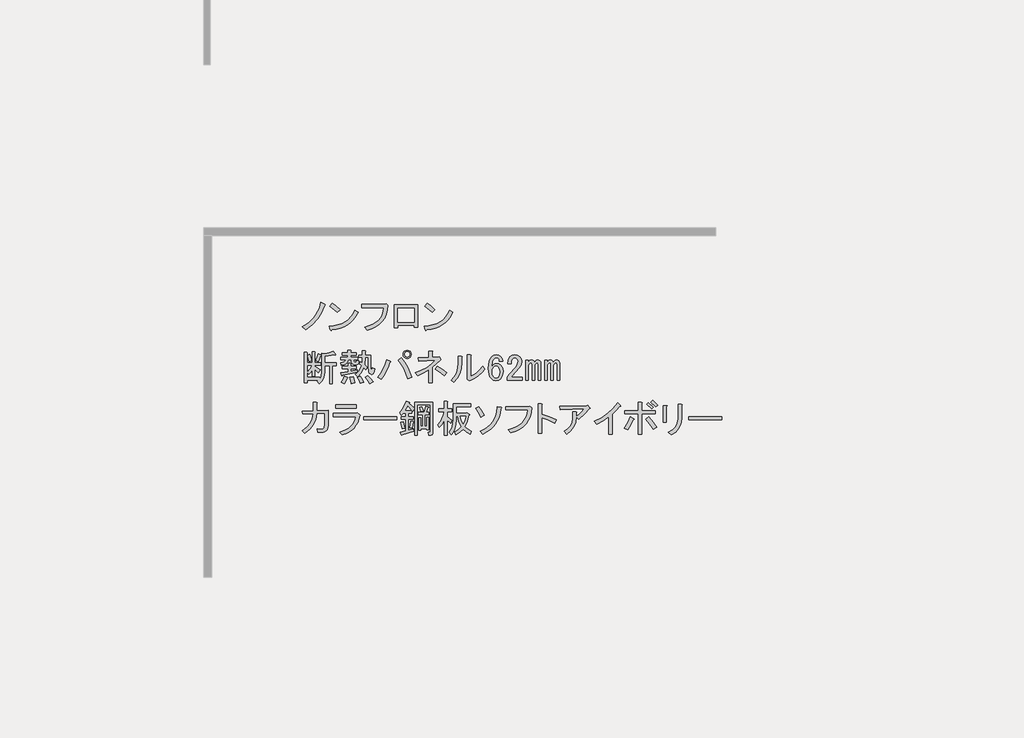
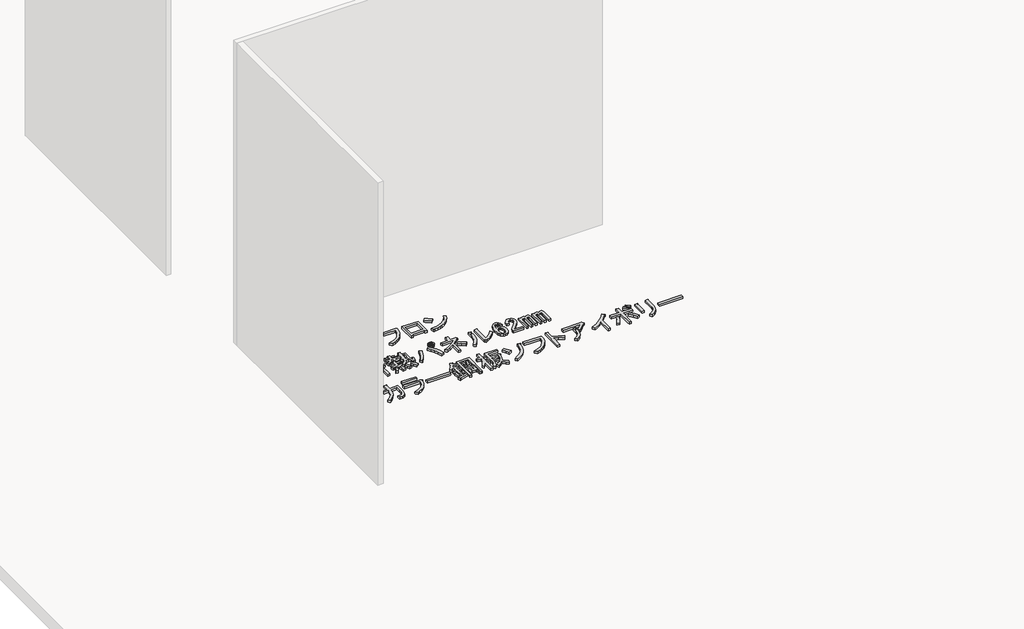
# One storey, part 64 of 117: 1 proxy.
"""IFC4 building model written with IfcOpenShell, lengths in millimetres."""

from ifc_helpers import new_model, si_unit, frame, origin, place, context, project, spatial, polyline, outline, extrude, element, save

model = new_model("IFC4")

# Units and contexts
model_context = context("Model", 3, world=origin())
ifc_project = project(units=[si_unit("LENGTHUNIT", "METRE", prefix="MILLI")], contexts=[model_context])

# Site, building, storey
site = spatial("IfcSite", under=ifc_project)
building = spatial("IfcBuilding", under=site)
storey = spatial("IfcBuildingStorey", under=building, Name="レベル 1", Elevation=500.0)

# Proxy
placement = place(None, origin())
element("IfcBuildingElementProxy", 1, Name="200㎜\u3000MS Pゴシック", ObjectType="200㎜\u3000MS Pゴシック", at=placement, inside=storey, context=model_context, shape_type="SweptSolid", body=[
    extrude(outline(polyline([(-23056.3293015, 3392.9503118), (-23081.9047498, 3333.1784775), (-23110.353844, 3287.2001434), (-23152.0217093, 3241.7965385), (-23201.1610538, 3204.439142), (-23228.7480543, 3226.2788507), (-23181.0455327, 3256.7394971), (-23141.3892195, 3295.2463519), (-23124.0036619, 3319.1694538), (-23108.6296565, 3347.2593423), (-23095.2672031, 3379.5160173), (-23083.9163019, 3415.9394788), (-23052.8809264, 3402.1459786), (-23049.7199159, 3397.5481452), (-23056.3293015, 3392.9503118)])), frame((0.0, 0.0, 500.0), z_axis=(0.0, 0.0, 1.0), x_axis=(1.0, 0.0, 0.0)), (0.0, 0.0, 1.0), 25.0),
    extrude(outline(polyline([(-22956.6022948, 3337.7763109), (-23015.2246708, 3384.9041033), (-22995.6838788, 3409.0427287), (-22968.3842429, 3389.2145721), (-22934.7625862, 3359.6160196), (-22956.6022948, 3337.7763109)])), frame((0.0, 0.0, 500.0), z_axis=(0.0, 0.0, 1.0), x_axis=(1.0, 0.0, 0.0)), (0.0, 0.0, 1.0), 25.0),
    extrude(outline(polyline([(-22794.5286672, 3337.7763109), (-22811.052131, 3308.034076), (-22830.1618761, 3282.0275808), (-22851.8579025, 3259.7568252), (-22876.1402102, 3241.2218093), (-22903.0087992, 3226.422533), (-22932.4636694, 3215.3589964), (-22964.504821, 3208.0311994), (-22999.1322539, 3204.439142), (-23004.8795456, 3196.3929336), (-23010.6268374, 3202.1402253), (-23019.8225042, 3232.0261425), (-22983.9917321, 3234.7022252), (-22951.2142088, 3241.0062859), (-22921.4899342, 3250.9383244), (-22894.8189084, 3264.4983409), (-22871.2011313, 3281.6863354), (-22850.636603, 3302.5023077), (-22833.1253234, 3326.946258), (-22818.6672926, 3355.0181862), (-22794.5286672, 3337.7763109)])), frame((0.0, 0.0, 500.0), z_axis=(0.0, 0.0, 1.0), x_axis=(1.0, 0.0, 0.0)), (0.0, 0.0, 1.0), 25.0),
    extrude(outline(polyline([(-22743.7685864, 3222.8304757), (-22709.985287, 3232.5110702), (-22680.4765359, 3244.8857078), (-22655.242333, 3259.9543884), (-22634.2826783, 3277.717112), (-22617.597572, 3298.1738786), (-22605.1870138, 3321.3246882), (-22597.0510039, 3347.1695409), (-22593.1895423, 3375.7084365), (-22765.6082951, 3375.7084365), (-22765.6082951, 3400.9965202), (-22590.8906256, 3400.9965202), (-22574.7982086, 3404.4448953), (-22562.1541668, 3392.9503118), (-22565.674383, 3356.4550091), (-22573.9361149, 3323.4080815), (-22586.9393625, 3293.8095289), (-22604.6841258, 3267.6593514), (-22627.1704048, 3244.957549), (-22654.3981995, 3225.7041216), (-22686.3675099, 3209.8990692), (-22723.078336, 3197.5423919), (-22743.7685864, 3222.8304757)])), frame((0.0, 0.0, 500.0), z_axis=(0.0, 0.0, 1.0), x_axis=(1.0, 0.0, 0.0)), (0.0, 0.0, 1.0), 25.0),
    extrude(outline(polyline([(-22329.044013, 3223.979934), (-22355.4815551, 3223.979934), (-22355.4815551, 3236.6239759), (-22483.0714321, 3236.6239759), (-22483.0714321, 3218.2326423), (-22509.5089742, 3218.2326423), (-22509.5089742, 3397.5481452), (-22329.044013, 3397.5481452), (-22329.044013, 3223.979934)]), holes=[polyline([(-22483.0714321, 3372.2600614), (-22483.0714321, 3261.9120596), (-22355.4815551, 3261.9120596), (-22355.4815551, 3372.2600614), (-22483.0714321, 3372.2600614)])]), frame((0.0, 0.0, 500.0), z_axis=(0.0, 0.0, 1.0), x_axis=(1.0, 0.0, 0.0)), (0.0, 0.0, 1.0), 25.0),
    extrude(outline(polyline([(-22052.9900951, 3337.7763109), (-22069.5135589, 3308.034076), (-22088.623304, 3282.0275808), (-22110.3193304, 3259.7568252), (-22134.6016381, 3241.2218093), (-22161.4702271, 3226.422533), (-22190.9250974, 3215.3589964), (-22222.9662489, 3208.0311994), (-22257.5936818, 3204.439142), (-22263.3409736, 3196.3929336), (-22269.0882653, 3202.1402253), (-22278.2839321, 3232.0261425), (-22242.4531601, 3234.7022252), (-22209.6756367, 3241.0062859), (-22179.9513622, 3250.9383244), (-22153.2803363, 3264.4983409), (-22129.6625593, 3281.6863354), (-22109.0980309, 3302.5023077), (-22091.5867514, 3326.946258), (-22077.1287205, 3355.0181862), (-22052.9900951, 3337.7763109)])), frame((0.0, 0.0, 500.0), z_axis=(0.0, 0.0, 1.0), x_axis=(1.0, 0.0, 0.0)), (0.0, 0.0, 1.0), 25.0),
    extrude(outline(polyline([(-22215.0637228, 3337.7763109), (-22273.6860987, 3384.9041033), (-22254.1453067, 3409.0427287), (-22226.8456709, 3389.2145721), (-22193.2240141, 3359.6160196), (-22215.0637228, 3337.7763109)])), frame((0.0, 0.0, 500.0), z_axis=(0.0, 0.0, 1.0), x_axis=(1.0, 0.0, 0.0)), (0.0, 0.0, 1.0), 25.0),
    extrude(outline(polyline([(-23122.9978859, 2960.7654779), (-23105.7560106, 3013.6405621), (-23085.0657603, 3007.8932704), (-23083.3415727, 3004.7322599), (-23087.364677, 3002.1459786), (-23104.6065522, 2953.8687278), (-23122.9978859, 2960.7654779)])), frame((0.0, 0.0, 500.0), z_axis=(0.0, 0.0, 1.0), x_axis=(1.0, 0.0, 0.0)), (0.0, 0.0, 1.0), 25.0),
    extrude(outline(polyline([(-22968.9704667, 3009.0427287), (-22970.6946542, 3004.4448953), (-22978.1661335, 3006.743812), (-23055.1798431, 2994.0997701), (-23055.1798431, 2944.673061), (-22963.2231749, 2944.673061), (-22963.2231749, 2922.8333523), (-22994.2585505, 2922.8333523), (-22994.2585505, 2782.5994334), (-23017.2477175, 2782.5994334), (-23017.2477175, 2922.8333523), (-23055.1798431, 2922.8333523), (-23055.1798431, 2873.4066432), (-23057.7661244, 2845.6041193), (-23065.5249683, 2820.8189236), (-23078.4563747, 2799.051056), (-23096.5603438, 2780.3005167), (-23113.8022191, 2799.8413086), (-23103.4570939, 2809.0369755), (-23193.1148454, 2809.0369755), (-23193.1148454, 2787.1972668), (-23216.1040124, 2787.1972668), (-23216.1040124, 3026.284604), (-23194.2643037, 3026.284604), (-23189.3791057, 3023.9856873), (-23193.1148454, 3019.3878539), (-23193.1148454, 2943.5236026), (-23150.5848863, 2943.5236026), (-23150.5848863, 3030.8824374), (-23132.1935527, 3030.8824374), (-23127.3083547, 3028.5835207), (-23131.0440943, 3023.9856873), (-23131.0440943, 2943.5236026), (-23087.364677, 2943.5236026), (-23087.364677, 2925.132269), (-23131.0440943, 2925.132269), (-23131.0440943, 2915.9366022), (-23090.813052, 2889.4990601), (-23104.6065522, 2867.6593514), (-23131.0440943, 2894.0968935), (-23131.0440943, 2841.2218093), (-23150.5848863, 2841.2218093), (-23150.5848863, 2889.4990601), (-23163.8036574, 2869.6709035), (-23178.1718868, 2853.8658512), (-23190.8159287, 2872.2571848), (-23168.97622, 2896.3958102), (-23151.7343447, 2925.132269), (-23193.1148454, 2925.132269), (-23193.1148454, 2830.8766841), (-23095.4108854, 2830.8766841), (-23095.4108854, 2817.0831839), (-23082.479479, 2841.2218093), (-23078.1690102, 2874.5561015), (-23078.1690102, 3019.3878539), (-23056.3293015, 3013.6405621), (-23020.1213634, 3021.1120414), (-22989.660717, 3034.3308125), (-22968.9704667, 3009.0427287)])), frame((0.0, 0.0, 500.0), z_axis=(0.0, 0.0, 1.0), x_axis=(1.0, 0.0, 0.0)), (0.0, 0.0, 1.0), 25.0),
    extrude(outline(polyline([(-23177.0224284, 2952.7192695), (-23189.6664703, 3003.2954369), (-23170.1256783, 3010.1921871), (-23162.3668344, 2986.0535617), (-23157.4816364, 2959.6160196), (-23177.0224284, 2952.7192695)])), frame((0.0, 0.0, 500.0), z_axis=(0.0, 0.0, 1.0), x_axis=(1.0, 0.0, 0.0)), (0.0, 0.0, 1.0), 25.0),
    extrude(outline(polyline([(-22878.1632569, 2832.0261425), (-22874.7148818, 2827.1409445), (-22880.4621736, 2823.979934), (-22890.2325696, 2798.4044857), (-22901.1524239, 2779.1510583), (-22924.141591, 2790.6456418), (-22911.4975491, 2814.209538), (-22901.1524239, 2841.2218093), (-22878.1632569, 2832.0261425)])), frame((0.0, 0.0, 500.0), z_axis=(0.0, 0.0, 1.0), x_axis=(1.0, 0.0, 0.0)), (0.0, 0.0, 1.0), 25.0),
    extrude(outline(polyline([(-22833.3343812, 2836.6239759), (-22823.2766206, 2809.32434), (-22818.3914226, 2787.1972668), (-22847.1278814, 2781.449975), (-22849.7141627, 2803.0023191), (-22857.4730066, 2833.1756008), (-22833.3343812, 2836.6239759)])), frame((0.0, 0.0, 500.0), z_axis=(0.0, 0.0, 1.0), x_axis=(1.0, 0.0, 0.0)), (0.0, 0.0, 1.0), 25.0),
    extrude(outline(polyline([(-22718.388546, 2842.3712677), (-22693.6751914, 2821.1062881), (-22674.7091286, 2796.3929336), (-22701.1466707, 2781.449975), (-22720.4000981, 2811.0485276), (-22739.0787963, 2830.8766841), (-22718.388546, 2842.3712677)])), frame((0.0, 0.0, 500.0), z_axis=(0.0, 0.0, 1.0), x_axis=(1.0, 0.0, 0.0)), (0.0, 0.0, 1.0), 25.0),
    extrude(outline(polyline([(-22777.0109219, 2783.7488917), (-22785.344495, 2808.4622463), (-22798.8506306, 2829.7272258), (-22778.1603803, 2837.7734343), (-22761.2058696, 2816.2210902), (-22749.4239215, 2792.9445585), (-22777.0109219, 2783.7488917)])), frame((0.0, 0.0, 500.0), z_axis=(0.0, 0.0, 1.0), x_axis=(1.0, 0.0, 0.0)), (0.0, 0.0, 1.0), 25.0),
    extrude(outline(polyline([(-22916.0953825, 2846.9691011), (-22918.1069346, 2842.0839031), (-22921.8426743, 2843.520726), (-22927.589966, 2867.6593514), (-22872.4159651, 2875.7055599), (-22872.4159651, 2898.6947269), (-22916.0953825, 2898.6947269), (-22916.0953825, 2917.0860605), (-22872.4159651, 2917.0860605), (-22872.4159651, 2940.0752276), (-22854.0246315, 2940.0752276), (-22849.1394335, 2937.7763109), (-22852.8751732, 2933.1784775), (-22852.8751732, 2917.0860605), (-22808.0462974, 2917.0860605), (-22808.0462974, 2898.6947269), (-22852.8751732, 2898.6947269), (-22852.8751732, 2879.1539349), (-22802.2990057, 2888.3496017), (-22802.2990057, 2872.2571848), (-22916.0953825, 2846.9691011)])), frame((0.0, 0.0, 500.0), z_axis=(0.0, 0.0, 1.0), x_axis=(1.0, 0.0, 0.0)), (0.0, 0.0, 1.0), 25.0),
    extrude(outline(polyline([(-22845.978423, 2968.8116864), (-22871.2665068, 2968.8116864), (-22875.8643402, 2951.3542877), (-22886.2094654, 2938.0636755), (-22902.3018823, 2928.9398498), (-22924.141591, 2923.9828107), (-22928.7394244, 2943.5236026), (-22903.4513406, 2952.1445403), (-22895.9798614, 2959.4723373), (-22891.9567571, 2968.8116864), (-22927.589966, 2968.8116864), (-22927.589966, 2987.20302), (-22873.5654235, 2987.20302), (-22873.5654235, 3004.4448953), (-22917.2448409, 3004.4448953), (-22917.2448409, 3022.8362289), (-22873.5654235, 3022.8362289), (-22873.5654235, 3041.2275626), (-22851.7257148, 3041.2275626), (-22846.8405168, 3038.9286459), (-22850.5762564, 3034.3308125), (-22850.5762564, 3022.8362289), (-22808.0462974, 3022.8362289), (-22808.0462974, 3004.4448953), (-22850.5762564, 3004.4448953), (-22850.5762564, 2987.20302), (-22797.7011723, 2987.20302), (-22797.7011723, 2968.8116864), (-22826.4376311, 2968.8116864), (-22826.4376311, 2956.1676445), (-22825.0008081, 2950.9950819), (-22820.6903393, 2949.2708944), (-22810.3452141, 2949.2708944), (-22806.6094745, 2952.4319049), (-22806.8968391, 2961.9149363), (-22787.3560471, 2959.6160196), (-22790.229693, 2938.0636755), (-22795.5459378, 2932.6755894), (-22803.448464, 2930.8795608), (-22827.5870894, 2930.8795608), (-22841.3805896, 2935.7647588), (-22845.978423, 2950.4203528), (-22845.978423, 2968.8116864)])), frame((0.0, 0.0, 500.0), z_axis=(0.0, 0.0, 1.0), x_axis=(1.0, 0.0, 0.0)), (0.0, 0.0, 1.0), 25.0),
    extrude(outline(polyline([(-22714.9401709, 2986.0535617), (-22736.7798796, 2986.0535617), (-22741.377713, 2928.5806441), (-22721.836921, 2910.1893104), (-22732.1820462, 2888.3496017), (-22748.2744631, 2904.4420187), (-22767.5278905, 2866.7972576), (-22797.7011723, 2834.3250592), (-22814.9430475, 2855.0153095), (-22799.8564067, 2866.9409399), (-22786.7813179, 2882.0275808), (-22775.7177813, 2900.2752321), (-22766.6657967, 2921.683894), (-22783.907672, 2936.6268525), (-22775.8614636, 2953.8687278), (-22762.0679633, 2943.5236026), (-22759.7690466, 2986.0535617), (-22787.3560471, 2986.0535617), (-22787.3560471, 3004.4448953), (-22759.7690466, 3004.4448953), (-22759.7690466, 3038.9286459), (-22737.9293379, 3038.9286459), (-22733.04414, 3036.6297292), (-22736.7798796, 3032.0318957), (-22736.7798796, 3004.4448953), (-22695.3993789, 3004.4448953), (-22695.3993789, 2907.8903937), (-22691.9510039, 2883.7517683), (-22688.7181523, 2881.7402162), (-22685.9163475, 2884.9012267), (-22681.6058787, 2906.7409354), (-22662.0650867, 2899.8441853), (-22666.591079, 2873.0474374), (-22674.421764, 2857.0268616), (-22685.5571418, 2851.7824579), (-22699.9972123, 2857.3142262), (-22706.5347567, 2864.6420232), (-22711.2044313, 2876.280289), (-22714.9401709, 2912.4882271), (-22714.9401709, 2986.0535617)])), frame((0.0, 0.0, 500.0), z_axis=(0.0, 0.0, 1.0), x_axis=(1.0, 0.0, 0.0)), (0.0, 0.0, 1.0), 25.0),
    extrude(outline(polyline([(-22456.3120417, 2983.754645), (-22429.6589762, 2947.0438188), (-22407.1726971, 2909.3272167), (-22388.8532047, 2870.6048384), (-22374.7004987, 2830.8766841), (-22405.7358742, 2820.531559), (-22421.1817208, 2863.6362472), (-22438.7828018, 2902.143102), (-22458.5391173, 2936.0521234), (-22480.4506671, 2965.3633113), (-22456.3120417, 2983.754645)])), frame((0.0, 0.0, 500.0), z_axis=(0.0, 0.0, 1.0), x_axis=(1.0, 0.0, 0.0)), (0.0, 0.0, 1.0), 25.0),
    extrude(outline(polyline([(-22543.6708765, 2957.3171029), (-22539.6477722, 2951.8571757), (-22545.9697932, 2946.9719777), (-22557.8954236, 2911.5542922), (-22572.9820644, 2877.717112), (-22591.2297158, 2845.460437), (-22612.6383776, 2814.7842672), (-22639.0759197, 2832.0261425), (-22615.8712292, 2863.4925649), (-22596.8333252, 2896.9705394), (-22581.9622078, 2932.460066), (-22571.2578769, 2969.9611447), (-22543.6708765, 2957.3171029)])), frame((0.0, 0.0, 500.0), z_axis=(0.0, 0.0, 1.0), x_axis=(1.0, 0.0, 0.0)), (0.0, 0.0, 1.0), 25.0),
    extrude(outline(polyline([(-22410.3337076, 2978.0073532), (-22422.9777495, 2980.3062699), (-22433.3228747, 2987.20302), (-22440.2196248, 2997.5481452), (-22442.5185415, 3010.1921871), (-22440.2196248, 3022.8362289), (-22433.3228747, 3033.1813541), (-22422.9777495, 3040.0781042), (-22410.3337076, 3042.3770209), (-22397.6896657, 3040.0781042), (-22387.3445406, 3033.1813541), (-22380.4477905, 3022.8362289), (-22378.1488738, 3010.1921871), (-22380.4477905, 2997.5481452), (-22387.3445406, 2987.20302), (-22397.6896657, 2980.3062699), (-22410.3337076, 2978.0073532)]), holes=[polyline([(-22410.3337076, 2989.5019367), (-22402.0001346, 2990.9387597), (-22395.390749, 2995.2492285), (-22391.0802802, 3001.858614), (-22389.6434573, 3010.1921871), (-22391.0802802, 3018.5257601), (-22395.390749, 3025.1351456), (-22402.0001346, 3029.4456145), (-22410.3337076, 3030.8824374), (-22418.6672807, 3029.4456145), (-22425.2766662, 3025.1351456), (-22429.587135, 3018.5257601), (-22431.023958, 3010.1921871), (-22429.587135, 3001.858614), (-22425.2766662, 2995.2492285), (-22418.6672807, 2990.9387597), (-22410.3337076, 2989.5019367)])]), frame((0.0, 0.0, 500.0), z_axis=(0.0, 0.0, 1.0), x_axis=(1.0, 0.0, 0.0)), (0.0, 0.0, 1.0), 25.0),
    extrude(outline(polyline([(-22120.6702029, 2844.6701844), (-22157.7402348, 2873.9813723), (-22190.7871624, 2895.2463519), (-22173.5452871, 2917.0860605), (-22134.7510677, 2893.8095289), (-22101.1294109, 2867.6593514), (-22120.6702029, 2844.6701844)])), frame((0.0, 0.0, 500.0), z_axis=(0.0, 0.0, 1.0), x_axis=(1.0, 0.0, 0.0)), (0.0, 0.0, 1.0), 25.0),
    extrude(outline(polyline([(-22166.648537, 2988.3524784), (-22159.7517869, 2990.6513951), (-22147.107745, 2973.4095198), (-22145.9582866, 2967.3748634), (-22151.7055784, 2965.3633113), (-22214.9257878, 2909.0398521), (-22214.9257878, 2788.3467251), (-22241.3633299, 2788.3467251), (-22241.3633299, 2890.6485184), (-22281.5943722, 2866.5098931), (-22326.4232479, 2844.6701844), (-22345.9640399, 2865.3604347), (-22300.4167527, 2884.8293855), (-22259.1799343, 2907.6030291), (-22222.2535848, 2933.6813655), (-22189.637704, 2963.0643946), (-22319.5264978, 2957.3171029), (-22322.9748729, 2982.6051866), (-22241.3633299, 2984.9041033), (-22241.3633299, 3036.6297292), (-22218.3741628, 3036.6297292), (-22212.3395065, 3033.1813541), (-22214.9257878, 3027.4340623), (-22214.9257878, 2986.0535617), (-22166.648537, 2988.3524784)])), frame((0.0, 0.0, 500.0), z_axis=(0.0, 0.0, 1.0), x_axis=(1.0, 0.0, 0.0)), (0.0, 0.0, 1.0), 25.0),
    extrude(outline(polyline([(-22067.703162, 2806.7380587), (-22042.5587606, 2835.9774056), (-22024.5984738, 2868.5214452), (-22013.8223018, 2904.3701775), (-22010.2302444, 2943.5236026), (-22010.2302444, 2995.2492285), (-21986.091619, 2995.2492285), (-21980.3443273, 2991.8008534), (-21983.7927023, 2986.0535617), (-21983.7927023, 2944.673061), (-21987.6002831, 2898.9102504), (-21999.0230255, 2858.17632), (-22018.0609295, 2822.4712699), (-22044.713995, 2791.7951002), (-22067.703162, 2806.7380587)])), frame((0.0, 0.0, 500.0), z_axis=(0.0, 0.0, 1.0), x_axis=(1.0, 0.0, 0.0)), (0.0, 0.0, 1.0), 25.0),
    extrude(outline(polyline([(-21913.6757429, 2837.7734343), (-21888.8905471, 2849.9864292), (-21865.1111275, 2867.0846222), (-21842.3374839, 2889.0680132), (-21820.5696163, 2915.9366022), (-21804.4771994, 2894.0968935), (-21827.753731, 2866.2943696), (-21853.9039086, 2842.6586322), (-21882.9277319, 2823.1896814), (-21914.8252012, 2807.8875171), (-21924.020868, 2803.2896837), (-21942.4122017, 2817.0831839), (-21940.113285, 2822.8304757), (-21940.113285, 3007.8932704), (-21915.9746596, 3007.8932704), (-21910.2273678, 3004.4448953), (-21913.6757429, 2998.6976035), (-21913.6757429, 2837.7734343)])), frame((0.0, 0.0, 500.0), z_axis=(0.0, 0.0, 1.0), x_axis=(1.0, 0.0, 0.0)), (0.0, 0.0, 1.0), 25.0),
    extrude(outline(polyline([(-21775.7407406, 2902.143102), (-21774.0165531, 2931.5261311), (-21768.8439905, 2956.4550091), (-21760.2230529, 2976.929736), (-21748.1537402, 2992.9503118), (-21732.6360524, 3003.2954369), (-21713.6699896, 3006.743812), (-21693.841833, 3003.2954369), (-21678.0367807, 2992.9503118), (-21666.8295618, 2975.9958011), (-21663.0938221, 2955.0181862), (-21689.5313642, 2955.0181862), (-21691.2555517, 2968.8116864), (-21696.4281143, 2978.0073532), (-21704.1869582, 2983.1799158), (-21713.6699896, 2984.9041033), (-21723.153021, 2983.1799158), (-21730.9118649, 2978.0073532), (-21738.9580734, 2967.0874989), (-21744.7053651, 2952.7192695), (-21749.3031985, 2913.6376855), (-21737.808615, 2928.5806441), (-21726.3140315, 2936.3394879), (-21712.5205313, 2938.9257692), (-21693.5544684, 2935.4773942), (-21678.0367807, 2925.132269), (-21665.1053742, 2903.5799249), (-21660.7949054, 2873.4066432), (-21665.3927388, 2842.0839031), (-21679.186239, 2819.3821006), (-21695.5660206, 2809.0369755), (-21717.1183647, 2805.5886004), (-21736.9465212, 2809.8990692), (-21755.0504903, 2822.8304757), (-21764.1024748, 2835.5463587), (-21770.568178, 2853.0037574), (-21775.7407406, 2902.143102)]), holes=[polyline([(-21714.819448, 2918.2355189), (-21725.4519377, 2916.2239668), (-21734.3602399, 2910.1893104), (-21743.8432714, 2895.2463519), (-21747.0042818, 2875.7055599), (-21743.5559068, 2851.5669345), (-21733.2107816, 2834.3250592), (-21724.8772085, 2828.2904028), (-21715.9689063, 2826.2788507), (-21706.4858749, 2828.0030383), (-21698.727031, 2833.1756008), (-21690.9681872, 2848.405924), (-21688.3819059, 2873.4066432), (-21690.9681872, 2895.821081), (-21698.727031, 2910.1893104), (-21706.7732395, 2916.2239668), (-21714.819448, 2918.2355189)])]), frame((0.0, 0.0, 500.0), z_axis=(0.0, 0.0, 1.0), x_axis=(1.0, 0.0, 0.0)), (0.0, 0.0, 1.0), 25.0),
    extrude(outline(polyline([(-21625.1616965, 2937.7763109), (-21620.5638631, 2969.099051), (-21606.7703629, 2991.8008534), (-21590.3905814, 3003.0080724), (-21571.137154, 3006.743812), (-21548.4353515, 3003.0080724), (-21530.9061116, 2991.8008534), (-21519.6988927, 2975.1337073), (-21515.9631531, 2955.0181862), (-21520.2736219, 2929.1553732), (-21533.2050283, 2906.7409354), (-21566.5393205, 2868.8088098), (-21584.9306542, 2848.1185594), (-21598.7241544, 2829.7272258), (-21512.514778, 2829.7272258), (-21512.514778, 2807.8875171), (-21629.7595299, 2807.8875171), (-21629.7595299, 2827.4283091), (-21623.7248736, 2841.2218093), (-21610.2187379, 2859.6131429), (-21563.0909455, 2911.3387688), (-21548.4353515, 2932.6037483), (-21543.5501535, 2955.0181862), (-21545.8490702, 2967.662228), (-21552.7458203, 2978.0073532), (-21560.5046642, 2983.1799158), (-21569.9876956, 2984.9041033), (-21578.6086332, 2983.1799158), (-21586.0801125, 2978.0073532), (-21595.5631439, 2961.6275717), (-21598.7241544, 2937.7763109), (-21625.1616965, 2937.7763109)])), frame((0.0, 0.0, 500.0), z_axis=(0.0, 0.0, 1.0), x_axis=(1.0, 0.0, 0.0)), (0.0, 0.0, 1.0), 25.0),
    extrude(outline(polyline([(-21463.0880689, 2806.7380587), (-21482.6288608, 2806.7380587), (-21482.6288608, 2964.213853), (-21463.0880689, 2964.213853), (-21463.0880689, 2946.9719777), (-21451.0187562, 2962.4896654), (-21437.7999851, 2967.662228), (-21428.6043183, 2966.2254051), (-21421.7075682, 2961.9149363), (-21414.8108181, 2948.121436), (-21401.8794116, 2962.77703), (-21388.373276, 2967.662228), (-21380.0397029, 2966.2254051), (-21373.4303174, 2961.9149363), (-21368.2577548, 2953.2939986), (-21366.5335673, 2941.2246859), (-21366.5335673, 2806.7380587), (-21386.0743593, 2806.7380587), (-21386.0743593, 2930.8795608), (-21388.6606406, 2940.3625922), (-21396.4194844, 2943.5236026), (-21406.7646096, 2938.9257692), (-21412.799266, 2930.3048316), (-21414.8108181, 2920.5344356), (-21414.8108181, 2806.7380587), (-21434.3516101, 2806.7380587), (-21434.3516101, 2930.8795608), (-21436.9378914, 2940.3625922), (-21444.6967352, 2943.5236026), (-21455.0418604, 2938.9257692), (-21461.0765167, 2930.3048316), (-21463.0880689, 2920.5344356), (-21463.0880689, 2806.7380587)])), frame((0.0, 0.0, 500.0), z_axis=(0.0, 0.0, 1.0), x_axis=(1.0, 0.0, 0.0)), (0.0, 0.0, 1.0), 25.0),
    extrude(outline(polyline([(-21241.2426069, 2967.662228), (-21232.9090339, 2966.2254051), (-21226.2996483, 2961.9149363), (-21221.1270858, 2953.2939986), (-21219.4028982, 2941.2246859), (-21219.4028982, 2806.7380587), (-21238.9436902, 2806.7380587), (-21238.9436902, 2930.8795608), (-21241.5299715, 2940.3625922), (-21249.2888154, 2943.5236026), (-21259.6339406, 2938.9257692), (-21265.6685969, 2930.3048316), (-21267.680149, 2920.5344356), (-21267.680149, 2806.7380587), (-21287.220941, 2806.7380587), (-21287.220941, 2930.8795608), (-21289.8072223, 2940.3625922), (-21297.5660662, 2943.5236026), (-21307.9111913, 2938.9257692), (-21313.9458477, 2930.3048316), (-21315.9573998, 2920.5344356), (-21315.9573998, 2806.7380587), (-21335.4981918, 2806.7380587), (-21335.4981918, 2964.213853), (-21315.9573998, 2964.213853), (-21315.9573998, 2946.9719777), (-21303.8880871, 2962.4896654), (-21290.6693161, 2967.662228), (-21281.4736492, 2966.2254051), (-21274.5768991, 2961.9149363), (-21267.680149, 2948.121436), (-21254.7487426, 2962.77703), (-21241.2426069, 2967.662228)])), frame((0.0, 0.0, 500.0), z_axis=(0.0, 0.0, 1.0), x_axis=(1.0, 0.0, 0.0)), (0.0, 0.0, 1.0), 25.0),
    extrude(outline(polyline([(-23052.8809264, 2549.2708944), (-23118.4000525, 2546.9719777), (-23126.6617844, 2500.706279), (-23144.55023, 2459.6131429), (-23172.0653893, 2423.6925694), (-23209.2072623, 2392.9445585), (-23228.7480543, 2412.4853505), (-23193.7614157, 2440.7189213), (-23168.1141262, 2472.5445494), (-23151.8061858, 2507.9622349), (-23144.8375946, 2546.9719777), (-23226.4491376, 2544.673061), (-23228.7480543, 2567.662228), (-23143.6881362, 2569.9611447), (-23143.6881362, 2634.3308125), (-23119.5495108, 2634.3308125), (-23112.6527607, 2630.8824374), (-23117.2505941, 2625.1351456), (-23117.2505941, 2569.9611447), (-23026.4433843, 2573.4095198), (-23026.4433843, 2502.143102), (-23029.0296656, 2454.1532158), (-23036.7885095, 2422.8304757), (-23043.397895, 2412.7727151), (-23052.8809264, 2405.5886004), (-23065.2376037, 2401.2781316), (-23080.4679269, 2399.8413086), (-23108.0549273, 2399.8413086), (-23111.5033024, 2428.5777674), (-23081.6173852, 2426.2788507), (-23067.5365204, 2429.1524966), (-23059.7776765, 2437.7734343), (-23054.6051139, 2463.061518), (-23052.8809264, 2502.143102), (-23052.8809264, 2549.2708944)])), frame((0.0, 0.0, 500.0), z_axis=(0.0, 0.0, 1.0), x_axis=(1.0, 0.0, 0.0)), (0.0, 0.0, 1.0), 25.0),
    extrude(outline(polyline([(-22808.1382541, 2589.5019367), (-22966.7635067, 2589.5019367), (-22966.7635067, 2614.7900205), (-22808.1382541, 2614.7900205), (-22808.1382541, 2589.5019367)])), frame((0.0, 0.0, 500.0), z_axis=(0.0, 0.0, 1.0), x_axis=(1.0, 0.0, 0.0)), (0.0, 0.0, 1.0), 25.0),
    extrude(outline(polyline([(-22938.0270479, 2403.2896837), (-22888.3848153, 2421.6091762), (-22868.1435721, 2433.7323697), (-22850.9555777, 2447.8311948), (-22836.820832, 2463.9056515), (-22825.7393351, 2481.9557397), (-22817.7110869, 2501.9814594), (-22812.7360875, 2523.9828107), (-22987.453757, 2523.9828107), (-22987.453757, 2549.2708944), (-22811.5866291, 2549.2708944), (-22801.241504, 2552.7192695), (-22780.5512536, 2540.0752276), (-22777.6776078, 2534.6153004), (-22782.8501703, 2529.7301024), (-22788.9746281, 2502.2508637), (-22798.1523347, 2477.2860651), (-22810.3832899, 2454.8357067), (-22825.667494, 2434.8997884), (-22844.0049467, 2417.4783102), (-22865.3956483, 2402.5712722), (-22889.8395985, 2390.1786744), (-22917.3367975, 2380.3005167), (-22938.0270479, 2403.2896837)])), frame((0.0, 0.0, 500.0), z_axis=(0.0, 0.0, 1.0), x_axis=(1.0, 0.0, 0.0)), (0.0, 0.0, 1.0), 25.0),
    extrude(outline(polyline([(-22749.1020731, 2498.6947269), (-22749.1020731, 2523.9828107), (-22492.7728606, 2523.9828107), (-22492.7728606, 2498.6947269), (-22749.1020731, 2498.6947269)])), frame((0.0, 0.0, 500.0), z_axis=(0.0, 0.0, 1.0), x_axis=(1.0, 0.0, 0.0)), (0.0, 0.0, 1.0), 25.0),
    extrude(outline(polyline([(-22350.515895, 2634.3308125), (-22210.281976, 2634.3308125), (-22210.281976, 2394.0940169), (-22214.0177157, 2382.8867979), (-22225.2249346, 2379.1510583), (-22241.3173515, 2379.1510583), (-22245.9151849, 2400.990767), (-22234.4206014, 2400.990767), (-22230.9722264, 2402.1402253), (-22229.822768, 2405.5886004), (-22229.822768, 2615.9394788), (-22330.975103, 2615.9394788), (-22330.975103, 2376.8521416), (-22350.515895, 2376.8521416), (-22350.515895, 2634.3308125)])), frame((0.0, 0.0, 500.0), z_axis=(0.0, 0.0, 1.0), x_axis=(1.0, 0.0, 0.0)), (0.0, 0.0, 1.0), 25.0),
    extrude(outline(polyline([(-22362.0104785, 2486.050685), (-22359.4241972, 2482.8896746), (-22363.1599368, 2480.3033933), (-22371.2061453, 2433.1756008), (-22389.5974789, 2435.4745175), (-22383.8501872, 2489.4990601), (-22362.0104785, 2486.050685)])), frame((0.0, 0.0, 500.0), z_axis=(0.0, 0.0, 1.0), x_axis=(1.0, 0.0, 0.0)), (0.0, 0.0, 1.0), 25.0),
    extrude(outline(polyline([(-22439.0241881, 2484.9012267), (-22427.5296046, 2433.1756008), (-22448.2198549, 2427.4283091), (-22459.7144384, 2479.1539349), (-22439.0241881, 2484.9012267)])), frame((0.0, 0.0, 500.0), z_axis=(0.0, 0.0, 1.0), x_axis=(1.0, 0.0, 0.0)), (0.0, 0.0, 1.0), 25.0),
    extrude(outline(polyline([(-22365.4588536, 2565.3633113), (-22406.8393542, 2609.0427287), (-22428.6790629, 2569.9611447), (-22373.505062, 2569.9611447), (-22373.505062, 2551.5698111), (-22399.9426041, 2551.5698111), (-22399.9426041, 2522.8333523), (-22362.0104785, 2522.8333523), (-22362.0104785, 2504.4420187), (-22399.9426041, 2504.4420187), (-22399.9426041, 2417.0831839), (-22360.8610201, 2427.4283091), (-22358.5621034, 2407.8875171), (-22450.5187716, 2382.5994334), (-22452.8176883, 2376.8521416), (-22457.4155217, 2380.3005167), (-22464.3122718, 2403.2896837), (-22419.4833961, 2412.4853505), (-22419.4833961, 2504.4420187), (-22457.4155217, 2504.4420187), (-22457.4155217, 2522.8333523), (-22419.4833961, 2522.8333523), (-22419.4833961, 2551.5698111), (-22441.3231048, 2551.5698111), (-22456.2660634, 2533.1784775), (-22468.9101052, 2553.8687278), (-22440.7483756, 2591.5134888), (-22416.035021, 2642.3770209), (-22394.1953124, 2636.6297292), (-22390.7469373, 2632.8939895), (-22396.4942291, 2630.8824374), (-22397.6436874, 2627.4340623), (-22352.8148117, 2589.5019367), (-22365.4588536, 2565.3633113)])), frame((0.0, 0.0, 500.0), z_axis=(0.0, 0.0, 1.0), x_axis=(1.0, 0.0, 0.0)), (0.0, 0.0, 1.0), 25.0),
    extrude(outline(polyline([(-22297.6408108, 2602.1459786), (-22290.4566961, 2586.9156554), (-22284.9967689, 2566.5127697), (-22302.2386442, 2560.7654779), (-22313.7332277, 2597.5481452), (-22297.6408108, 2602.1459786)])), frame((0.0, 0.0, 500.0), z_axis=(0.0, 0.0, 1.0), x_axis=(1.0, 0.0, 0.0)), (0.0, 0.0, 1.0), 25.0),
    extrude(outline(polyline([(-22244.7657266, 2600.9965202), (-22242.1794453, 2597.5481452), (-22248.2141016, 2594.0997701), (-22260.8581435, 2556.1676445), (-22240.1678932, 2556.1676445), (-22240.1678932, 2537.7763109), (-22271.2032687, 2537.7763109), (-22271.2032687, 2449.2680178), (-22256.2603101, 2449.2680178), (-22256.2603101, 2517.0860605), (-22240.1678932, 2517.0860605), (-22240.1678932, 2422.8304757), (-22256.2603101, 2422.8304757), (-22256.2603101, 2430.8766841), (-22302.2386442, 2430.8766841), (-22302.2386442, 2418.2326423), (-22318.3310611, 2418.2326423), (-22318.3310611, 2514.7871438), (-22302.2386442, 2514.7871438), (-22302.2386442, 2449.2680178), (-22287.2956856, 2449.2680178), (-22287.2956856, 2537.7763109), (-22322.9288945, 2537.7763109), (-22322.9288945, 2556.1676445), (-22276.9505604, 2556.1676445), (-22266.6054353, 2605.5943537), (-22244.7657266, 2600.9965202)])), frame((0.0, 0.0, 500.0), z_axis=(0.0, 0.0, 1.0), x_axis=(1.0, 0.0, 0.0)), (0.0, 0.0, 1.0), 25.0),
    extrude(outline(polyline([(-22039.0126816, 2405.5886004), (-22010.2762228, 2422.8304757), (-21988.4365141, 2444.6701844), (-22006.2531185, 2486.6254142), (-22016.0235145, 2527.4311857), (-22028.6675564, 2527.4311857), (-22028.6675564, 2503.2925603), (-22031.1101554, 2461.5528539), (-22038.4379524, 2427.1409445), (-22050.6509474, 2400.0568321), (-22067.7491404, 2380.3005167), (-22081.5426406, 2403.2896837), (-22068.4675518, 2420.6752413), (-22059.1282027, 2442.9459968), (-22053.5245933, 2470.1019504), (-22051.6567234, 2502.143102), (-22051.6567234, 2622.8362289), (-21914.8711796, 2622.8362289), (-21914.8711796, 2600.9965202), (-22028.6675564, 2600.9965202), (-22028.6675564, 2549.2708944), (-21949.3549301, 2549.2708944), (-21943.6076384, 2555.0181862), (-21924.0668464, 2541.2246859), (-21922.6300234, 2537.4889463), (-21927.5152214, 2533.1784775), (-21939.8718987, 2486.6254142), (-21958.5505969, 2445.8196427), (-21939.5845341, 2427.4283091), (-21907.9744294, 2409.0369755), (-21917.1700963, 2384.8983501), (-21945.0444613, 2400.990767), (-21973.4935555, 2426.2788507), (-21997.9195455, 2401.8528608), (-22029.8170148, 2381.449975), (-22039.0126816, 2405.5886004)]), holes=[polyline([(-21994.1838058, 2527.4311857), (-21986.1375974, 2494.3842581), (-21973.4935555, 2466.5098931), (-21960.8495136, 2492.6600706), (-21952.8033052, 2527.4311857), (-21994.1838058, 2527.4311857)])]), frame((0.0, 0.0, 500.0), z_axis=(0.0, 0.0, 1.0), x_axis=(1.0, 0.0, 0.0)), (0.0, 0.0, 1.0), 25.0),
    extrude(outline(polyline([(-22121.7736829, 2376.8521416), (-22121.7736829, 2496.3958102), (-22139.5902874, 2462.1994242), (-22158.5563502, 2440.072351), (-22170.0509337, 2460.7626013), (-22152.8090584, 2483.4644037), (-22139.0155582, 2507.8903937), (-22128.670433, 2534.0405712), (-22121.7736829, 2561.9149363), (-22163.1541836, 2561.9149363), (-22163.1541836, 2583.754645), (-22121.7736829, 2583.754645), (-22121.7736829, 2643.5264793), (-22099.9339742, 2643.5264793), (-22095.0487762, 2641.2275626), (-22098.7845159, 2636.6297292), (-22098.7845159, 2583.754645), (-22060.8523903, 2583.754645), (-22060.8523903, 2561.9149363), (-22098.7845159, 2561.9149363), (-22098.7845159, 2521.683894), (-22060.8523903, 2495.2463519), (-22071.1975154, 2472.2571848), (-22098.7845159, 2495.2463519), (-22098.7845159, 2376.8521416), (-22121.7736829, 2376.8521416)])), frame((0.0, 0.0, 500.0), z_axis=(0.0, 0.0, 1.0), x_axis=(1.0, 0.0, 0.0)), (0.0, 0.0, 1.0), 25.0),
    extrude(outline(polyline([(-21835.5585533, 2520.5344356), (-21855.961439, 2559.9033842), (-21875.7895956, 2588.3524784), (-21850.5015118, 2602.1459786), (-21830.3859907, 2573.4095198), (-21809.1210112, 2535.4773942), (-21835.5585533, 2520.5344356)])), frame((0.0, 0.0, 500.0), z_axis=(0.0, 0.0, 1.0), x_axis=(1.0, 0.0, 0.0)), (0.0, 0.0, 1.0), 25.0),
    extrude(outline(polyline([(-21741.3029684, 2482.60231), (-21729.1618145, 2503.4362426), (-21719.1758951, 2530.3048316), (-21711.3452101, 2563.2080769), (-21705.6697595, 2602.1459786), (-21676.9333007, 2597.5481452), (-21672.0481027, 2593.8124055), (-21678.082759, 2587.20302), (-21683.3271628, 2551.8571757), (-21692.1636238, 2519.3849772), (-21704.5921423, 2489.7864247), (-21720.6127181, 2463.061518), (-21736.705135, 2444.0954552), (-21758.5448437, 2425.1293924), (-21819.4661363, 2387.1972668), (-21840.1563867, 2407.8875171), (-21809.4083758, 2423.7644106), (-21782.6834691, 2441.5091739), (-21759.9816666, 2461.121807), (-21741.3029684, 2482.60231)])), frame((0.0, 0.0, 500.0), z_axis=(0.0, 0.0, 1.0), x_axis=(1.0, 0.0, 0.0)), (0.0, 0.0, 1.0), 25.0),
    extrude(outline(polyline([(-21619.6902747, 2422.8304757), (-21585.9069754, 2432.5110702), (-21556.3982242, 2444.8857078), (-21531.1640214, 2459.9543884), (-21510.2043667, 2477.717112), (-21493.5192603, 2498.1738786), (-21481.1087022, 2521.3246882), (-21472.9726923, 2547.1695409), (-21469.1112306, 2575.7084365), (-21641.5299834, 2575.7084365), (-21641.5299834, 2600.9965202), (-21466.8123139, 2600.9965202), (-21450.719897, 2604.4448953), (-21438.0758551, 2592.9503118), (-21441.5960713, 2556.4550091), (-21449.8578032, 2523.4080815), (-21462.8610508, 2493.8095289), (-21480.6058141, 2467.6593514), (-21503.0920932, 2444.957549), (-21530.3198879, 2425.7041216), (-21562.2891983, 2409.8990692), (-21599.0000244, 2397.5423919), (-21619.6902747, 2422.8304757)])), frame((0.0, 0.0, 500.0), z_axis=(0.0, 0.0, 1.0), x_axis=(1.0, 0.0, 0.0)), (0.0, 0.0, 1.0), 25.0),
    extrude(outline(polyline([(-21357.8436622, 2542.3741443), (-21301.2328383, 2523.4080815), (-21244.0472853, 2498.6947269), (-21257.8407855, 2472.2571848), (-21313.302151, 2498.1199977), (-21357.8436622, 2513.6376855), (-21357.8436622, 2394.0940169), (-21384.2812042, 2394.0940169), (-21384.2812042, 2623.9856873), (-21361.2920372, 2623.9856873), (-21353.5331933, 2621.1120414), (-21357.8436622, 2614.7900205), (-21357.8436622, 2542.3741443)])), frame((0.0, 0.0, 500.0), z_axis=(0.0, 0.0, 1.0), x_axis=(1.0, 0.0, 0.0)), (0.0, 0.0, 1.0), 25.0),
    extrude(outline(polyline([(-21089.5600828, 2521.683894), (-21093.3676636, 2480.4470756), (-21107.0893227, 2444.0954552), (-21130.72506, 2412.6290328), (-21164.2748757, 2386.0478084), (-21183.8156677, 2407.8875171), (-21154.1452739, 2428.1467206), (-21132.9521356, 2452.1416637), (-21120.2362526, 2479.8723464), (-21115.9976249, 2511.3387688), (-21115.9976249, 2560.7654779), (-21091.8589995, 2560.7654779), (-21086.1117077, 2558.1791966), (-21089.5600828, 2552.7192695), (-21089.5600828, 2522.8333523), (-21053.0647801, 2553.5813632), (-21026.3398734, 2583.754645), (-21213.7015848, 2576.8578948), (-21216.0005015, 2603.2954369), (-21006.7990814, 2609.0427287), (-20998.752873, 2611.3416454), (-20981.5109977, 2590.6513951), (-20981.2236331, 2587.4903846), (-20987.2582895, 2587.20302), (-21025.1904151, 2543.8109672), (-21070.0192908, 2503.2925603), (-21089.5600828, 2521.683894)])), frame((0.0, 0.0, 500.0), z_axis=(0.0, 0.0, 1.0), x_axis=(1.0, 0.0, 0.0)), (0.0, 0.0, 1.0), 25.0),
    extrude(outline(polyline([(-20947.7169221, 2488.3496017), (-20891.0342572, 2516.2239668), (-20841.6793892, 2549.2708944), (-20799.6523182, 2587.4903846), (-20764.9530442, 2630.8824374), (-20743.1133355, 2612.4911038), (-20740.5270542, 2606.4564474), (-20751.1595439, 2602.1459786), (-20776.1602631, 2573.1221552), (-20807.4830032, 2543.5236026), (-20807.4830032, 2387.1972668), (-20833.9205453, 2387.1972668), (-20833.9205453, 2521.683894), (-20877.5999627, 2492.0853414), (-20928.1761302, 2465.3604347), (-20947.7169221, 2488.3496017)])), frame((0.0, 0.0, 500.0), z_axis=(0.0, 0.0, 1.0), x_axis=(1.0, 0.0, 0.0)), (0.0, 0.0, 1.0), 25.0),
    extrude(outline(polyline([(-20578.8327478, 2571.1106031), (-20473.0825794, 2571.1106031), (-20473.0825794, 2545.8225193), (-20578.8327478, 2545.8225193), (-20578.8327478, 2386.0478084), (-20605.2702899, 2386.0478084), (-20605.2702899, 2545.8225193), (-20708.7215416, 2545.8225193), (-20708.7215416, 2571.1106031), (-20605.2702899, 2571.1106031), (-20605.2702899, 2635.4802708), (-20581.1316645, 2635.4802708), (-20574.2349144, 2632.0318957), (-20578.8327478, 2626.284604), (-20578.8327478, 2571.1106031)])), frame((0.0, 0.0, 500.0), z_axis=(0.0, 0.0, 1.0), x_axis=(1.0, 0.0, 0.0)), (0.0, 0.0, 1.0), 25.0),
    extrude(outline(polyline([(-20639.7540405, 2507.8903937), (-20637.4551238, 2503.0051957), (-20644.3518739, 2499.8441853), (-20663.8926659, 2461.0499659), (-20688.0312912, 2420.531559), (-20713.319375, 2434.3250592), (-20686.8818329, 2476.8550182), (-20665.0421242, 2521.683894), (-20639.7540405, 2507.8903937)])), frame((0.0, 0.0, 500.0), z_axis=(0.0, 0.0, 1.0), x_axis=(1.0, 0.0, 0.0)), (0.0, 0.0, 1.0), 25.0),
    extrude(outline(polyline([(-20500.6695799, 2583.754645), (-20538.6017055, 2619.3878539), (-20524.8082053, 2633.1813541), (-20486.8760796, 2598.6976035), (-20500.6695799, 2583.754645)])), frame((0.0, 0.0, 500.0), z_axis=(0.0, 0.0, 1.0), x_axis=(1.0, 0.0, 0.0)), (0.0, 0.0, 1.0), 25.0),
    extrude(outline(polyline([(-20468.484746, 2599.8470619), (-20506.4168716, 2637.7791875), (-20491.473913, 2650.4232294), (-20453.5417874, 2613.6405621), (-20468.484746, 2599.8470619)])), frame((0.0, 0.0, 500.0), z_axis=(0.0, 0.0, 1.0), x_axis=(1.0, 0.0, 0.0)), (0.0, 0.0, 1.0), 25.0),
    extrude(outline(polyline([(-20523.6587469, 2521.683894), (-20487.4508088, 2479.7286641), (-20461.5879959, 2441.2218093), (-20486.8760796, 2423.979934), (-20513.6009863, 2465.0730701), (-20545.4984556, 2503.2925603), (-20523.6587469, 2521.683894)])), frame((0.0, 0.0, 500.0), z_axis=(0.0, 0.0, 1.0), x_axis=(1.0, 0.0, 0.0)), (0.0, 0.0, 1.0), 25.0),
    extrude(outline(polyline([(-20384.3443946, 2480.3033933), (-20410.7819367, 2480.3033933), (-20410.7819367, 2610.1921871), (-20385.493853, 2610.1921871), (-20379.4591966, 2607.3185412), (-20384.3443946, 2600.9965202), (-20384.3443946, 2480.3033933)])), frame((0.0, 0.0, 500.0), z_axis=(0.0, 0.0, 1.0), x_axis=(1.0, 0.0, 0.0)), (0.0, 0.0, 1.0), 25.0),
    extrude(outline(polyline([(-20265.9501844, 2505.591477), (-20270.9790647, 2465.504117), (-20286.0657055, 2431.4514133), (-20311.210107, 2403.433366), (-20346.412269, 2381.449975), (-20369.4014361, 2400.990767), (-20336.138985, 2420.531559), (-20312.215883, 2444.6701844), (-20297.6321302, 2473.4066432), (-20292.3877265, 2506.7409354), (-20292.3877265, 2621.6867706), (-20268.2491011, 2621.6867706), (-20261.9270801, 2618.2383955), (-20265.9501844, 2612.4911038), (-20265.9501844, 2505.591477)])), frame((0.0, 0.0, 500.0), z_axis=(0.0, 0.0, 1.0), x_axis=(1.0, 0.0, 0.0)), (0.0, 0.0, 1.0), 25.0),
    extrude(outline(polyline([(-20209.6267251, 2498.6947269), (-20209.6267251, 2523.9828107), (-19953.2975126, 2523.9828107), (-19953.2975126, 2498.6947269), (-20209.6267251, 2498.6947269)])), frame((0.0, 0.0, 500.0), z_axis=(0.0, 0.0, 1.0), x_axis=(1.0, 0.0, 0.0)), (0.0, 0.0, 1.0), 25.0),
])

save(model, "model.ifc")
